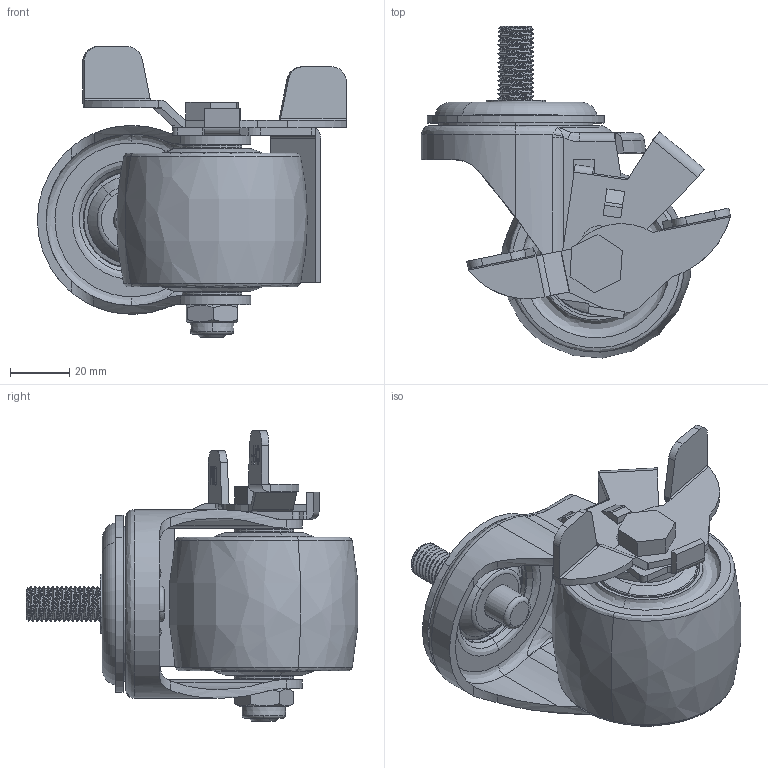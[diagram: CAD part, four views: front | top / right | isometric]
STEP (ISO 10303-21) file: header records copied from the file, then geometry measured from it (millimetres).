
FILE_DESCRIPTION (( 'STEP AP203' ), '1' );
FILE_NAME ('11090250056063.STEP', '2025-06-03T08:07:03', ( '' ), ( '' ), 'SwSTEP 2.0', 'SolidWorks 2021', '' );
FILE_SCHEMA (( 'CONFIG_CONTROL_DESIGN' ));
Length unit declared in the file: millimetre
Products named in the file (10): 鋼球6; 煞車踏板; 11090250056063; 六角頭車心; 湮疏屜(陔ㄘ_蕼偞; 2.5X2MRC_蕼偞; 2.5寸煞車片_預設; 2.5''''''''美國輪活動支腳; M12x25íͷ?12-Բ20x8.5; 尼帽M10
Assembly tree (9 placements, depth 2):
  11090250056063
    鋼球6
    煞車踏板
    六角頭車心
    尼帽M10
    2.5X2MRC_蕼偞
    2.5''''''''美國輪活動支腳
    M12x25íͷ?12-Բ20x8.5
    湮疏屜(陔ㄘ_蕼偞
    2.5寸煞車片_預設
Bounding box: 104.04 x 111.67 x 97.79 mm (x, y, z)
Volume: 186765.3 mm3; surface area: 79295.1 mm2
Topology: 54 solids, 54 shells, 1311 faces, 3698 edges, 2439 vertices
Faces by surface type: plane 934, cylinder 156, sphere 86, bspline 72, cone 37, torus 26
Entity records: 51725 total; most frequent: CARTESIAN_POINT 19902, ORIENTED_EDGE 6962, DIRECTION 5481, EDGE_CURVE 3481, VERTEX_POINT 2310, VECTOR 2021, LINE 2021, AXIS2_PLACEMENT_3D 1730
